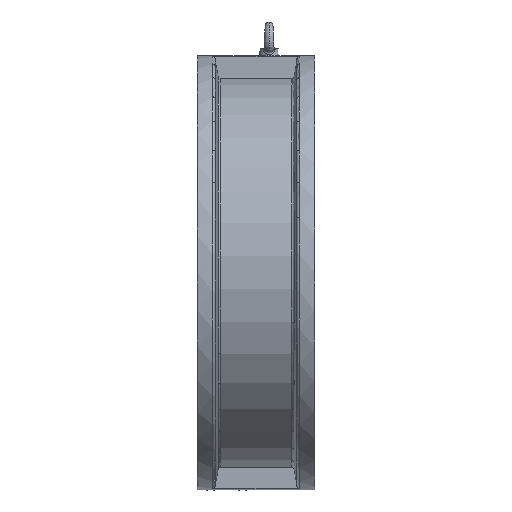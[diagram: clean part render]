
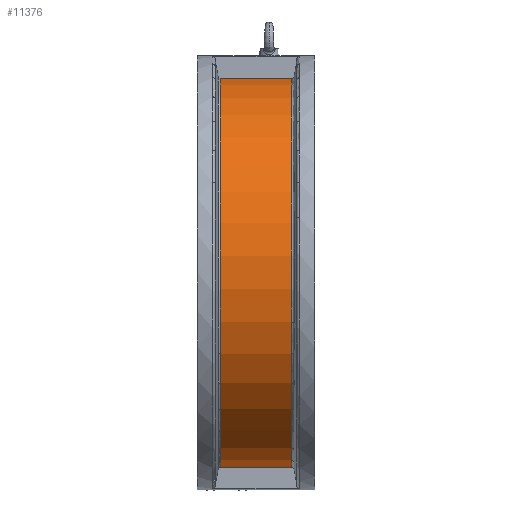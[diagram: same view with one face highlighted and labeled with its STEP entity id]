
A CAD part, left-side view. The second image highlights one B-rep face of the part: STEP entity #11376.
In plain terms, the highlighted cylindrical face has radius 254 mm (diameter 508 mm), a partial arc.
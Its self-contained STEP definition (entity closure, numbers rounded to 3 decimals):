
#219 = DIRECTION ( 'NONE',  ( 0., 1., 0. ) ) ;
#475 = ORIENTED_EDGE ( 'NONE', *, *, #7855, .T. ) ;
#483 = ORIENTED_EDGE ( 'NONE', *, *, #8610, .T. ) ;
#565 = ORIENTED_EDGE ( 'NONE', *, *, #4215, .F. ) ;
#818 = FACE_OUTER_BOUND ( 'NONE', #978, .T. ) ;
#891 = VECTOR ( 'NONE', #1978, 1000. ) ;
#978 = EDGE_LOOP ( 'NONE', ( #475, #483, #7934, #565 ) ) ;
#1944 = CARTESIAN_POINT ( 'NONE',  ( 3333.801, 1486.729, -252.101 ) ) ;
#1978 = DIRECTION ( 'NONE',  ( 0., 1., 0. ) ) ;
#2557 = EDGE_CURVE ( 'NONE', #5795, #7678, #7397, .T. ) ;
#2689 = CARTESIAN_POINT ( 'NONE',  ( 3333.801, 1380.123, 252.101 ) ) ;
#3035 = CARTESIAN_POINT ( 'NONE',  ( 3364.801, 1472.835, 0. ) ) ;
#3079 = DIRECTION ( 'NONE',  ( 0., 0., 1. ) ) ;
#3790 = LINE ( 'NONE', #1944, #7402 ) ;
#3980 = DIRECTION ( 'NONE',  ( 0., -1., 0. ) ) ;
#4215 = EDGE_CURVE ( 'NONE', #5912, #7678, #6693, .T. ) ;
#4538 = DIRECTION ( 'NONE',  ( 0., 1., 0. ) ) ;
#4947 = CARTESIAN_POINT ( 'NONE',  ( 3333.801, 1472.835, -252.101 ) ) ;
#5448 = CARTESIAN_POINT ( 'NONE',  ( 3364.801, 1515.943, 0. ) ) ;
#5453 = VERTEX_POINT ( 'NONE', #8191 ) ;
#5795 = VERTEX_POINT ( 'NONE', #2689 ) ;
#5912 = VERTEX_POINT ( 'NONE', #4947 ) ;
#6270 = AXIS2_PLACEMENT_3D ( 'NONE', #5448, #4538, #8248 ) ;
#6555 = DIRECTION ( 'NONE',  ( 0., 0., 1. ) ) ;
#6628 = CIRCLE ( 'NONE', #10327, 254. ) ;
#6693 = CIRCLE ( 'NONE', #9886, 254. ) ;
#7274 = CYLINDRICAL_SURFACE ( 'NONE', #6270, 254. ) ;
#7397 = LINE ( 'NONE', #12037, #891 ) ;
#7402 = VECTOR ( 'NONE', #3980, 1000. ) ;
#7678 = VERTEX_POINT ( 'NONE', #10111 ) ;
#7855 = EDGE_CURVE ( 'NONE', #5912, #5453, #3790, .T. ) ;
#7934 = ORIENTED_EDGE ( 'NONE', *, *, #2557, .T. ) ;
#8191 = CARTESIAN_POINT ( 'NONE',  ( 3333.801, 1380.123, -252.101 ) ) ;
#8248 = DIRECTION ( 'NONE',  ( 0., 0., 1. ) ) ;
#8610 = EDGE_CURVE ( 'NONE', #5453, #5795, #6628, .T. ) ;
#8632 = DIRECTION ( 'NONE',  ( 0., 1., 0. ) ) ;
#9886 = AXIS2_PLACEMENT_3D ( 'NONE', #3035, #8632, #6555 ) ;
#10111 = CARTESIAN_POINT ( 'NONE',  ( 3333.801, 1472.835, 252.101 ) ) ;
#10327 = AXIS2_PLACEMENT_3D ( 'NONE', #11428, #219, #3079 ) ;
#11376 = ADVANCED_FACE ( 'NONE', ( #818 ), #7274, .T. ) ;
#11428 = CARTESIAN_POINT ( 'NONE',  ( 3364.801, 1380.123, 0. ) ) ;
#12037 = CARTESIAN_POINT ( 'NONE',  ( 3333.801, 1515.943, 252.101 ) ) ;
